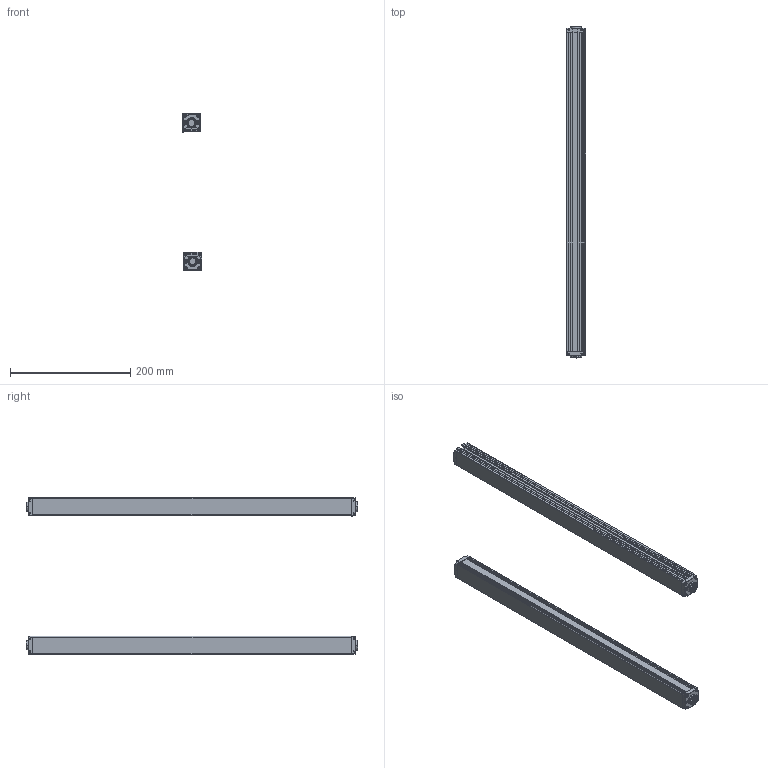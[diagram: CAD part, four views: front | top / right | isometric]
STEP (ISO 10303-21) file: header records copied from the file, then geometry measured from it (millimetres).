
FILE_DESCRIPTION (( 'STEP AP203' ), '1' );
FILE_NAME ('ZDA2620-530.STEP', '2022-08-30T07:32:34', ( 'Windows 蚚誧' ), ( 'Organization' ), 'SwSTEP 2.0', 'SolidWorks 2020', '' );
FILE_SCHEMA (( 'CONFIG_CONTROL_DESIGN' ));
Length unit declared in the file: millimetre
Products named in the file (5): 錨璃10; ZDA2620-530; 錨璃1; 錨璃8; 錨璃8 - 萵掛 (2)
Assembly tree (8 placements, depth 2):
  ZDA2620-530
    錨璃1  x2
    錨璃8  x2
    錨璃8 - 萵掛 (2)  x2
    錨璃10  x2
Bounding box: 32.36 x 551.4 x 260.35 mm (x, y, z)
Volume: 341864.3 mm3; surface area: 363152.3 mm2
Topology: 8 solids, 8 shells, 1032 faces, 2690 edges, 1668 vertices
Faces by surface type: plane 464, cylinder 310, cone 120, bspline 58, torus 48, sphere 32
Entity records: 17901 total; most frequent: CARTESIAN_POINT 4731, ORIENTED_EDGE 2666, DIRECTION 2616, EDGE_CURVE 1333, AXIS2_PLACEMENT_3D 894, VERTEX_POINT 834, VECTOR 828, LINE 828
